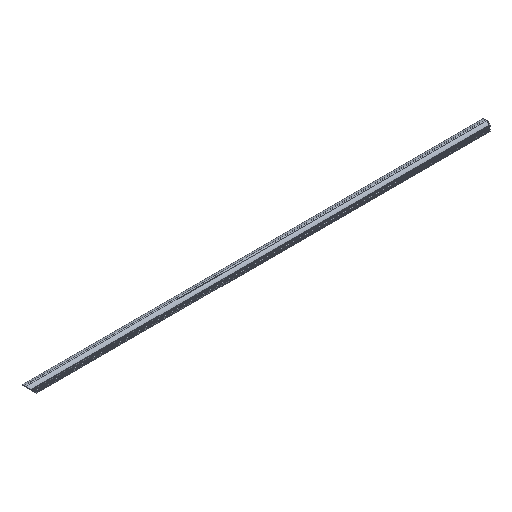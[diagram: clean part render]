
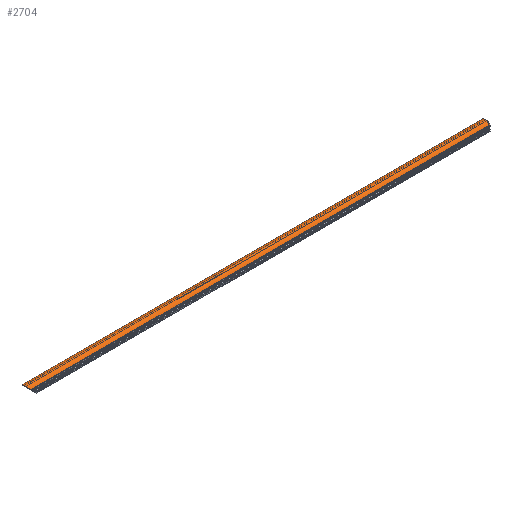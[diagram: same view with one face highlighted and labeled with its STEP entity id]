
A CAD part, isometric view. The second image highlights one B-rep face of the part: STEP entity #2704.
In plain terms, the highlighted cylindrical face has radius 25 mm (diameter 50 mm), a partial arc.
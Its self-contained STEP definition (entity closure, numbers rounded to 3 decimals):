
#1296=CIRCLE('',#2572,25.);
#1326=ELLIPSE('',#2571,35.355,25.);
#1356=ORIENTED_EDGE('',*,*,#1824,.F.);
#1357=ORIENTED_EDGE('',*,*,#1825,.T.);
#1358=ORIENTED_EDGE('',*,*,#1826,.T.);
#1359=ORIENTED_EDGE('',*,*,#1827,.T.);
#1608=VECTOR('',#2044,1.);
#1609=VECTOR('',#2047,1.);
#1674=LINE('',#2319,#1608);
#1675=LINE('',#2323,#1609);
#1740=VERTEX_POINT('',#2317);
#1741=VERTEX_POINT('',#2318);
#1742=VERTEX_POINT('',#2320);
#1743=VERTEX_POINT('',#2322);
#1824=EDGE_CURVE('',#1740,#1741,#1674,.T.);
#1825=EDGE_CURVE('',#1740,#1742,#1326,.T.);
#1826=EDGE_CURVE('',#1742,#1743,#1675,.T.);
#1827=EDGE_CURVE('',#1743,#1741,#1296,.T.);
#1950=EDGE_LOOP('',(#1356,#1357,#1358,#1359));
#1996=FACE_BOUND('',#1950,.T.);
#2042=DIRECTION('',(1.,0.,0.));
#2043=DIRECTION('',(0.,-0.86,-0.51));
#2044=DIRECTION('',(2183.243,0.,0.));
#2045=DIRECTION('',(0.707,0.,0.707));
#2046=DIRECTION('',(-0.707,0.,0.707));
#2047=DIRECTION('',(2208.757,0.,0.));
#2048=DIRECTION('',(-1.,0.,0.));
#2049=DIRECTION('',(0.,-21.5,-12.757));
#2316=CARTESIAN_POINT('',(0.,-25.,25.));
#2317=CARTESIAN_POINT('',(916.757,-46.5,12.243));
#2318=CARTESIAN_POINT('',(3100.,-46.5,12.243));
#2319=CARTESIAN_POINT('',(916.757,-46.5,12.243));
#2320=CARTESIAN_POINT('',(891.243,-46.5,37.757));
#2321=CARTESIAN_POINT('',(904.,-25.,25.));
#2322=CARTESIAN_POINT('',(3100.,-46.5,37.757));
#2323=CARTESIAN_POINT('',(891.243,-46.5,37.757));
#2324=CARTESIAN_POINT('',(3100.,-25.,25.));
#2570=AXIS2_PLACEMENT_3D('',#2316,#2042,#2043);
#2571=AXIS2_PLACEMENT_3D('',#2321,#2045,#2046);
#2572=AXIS2_PLACEMENT_3D('',#2324,#2048,#2049);
#2674=CYLINDRICAL_SURFACE('',#2570,25.);
#2704=ADVANCED_FACE('',(#1996),#2674,.T.);
